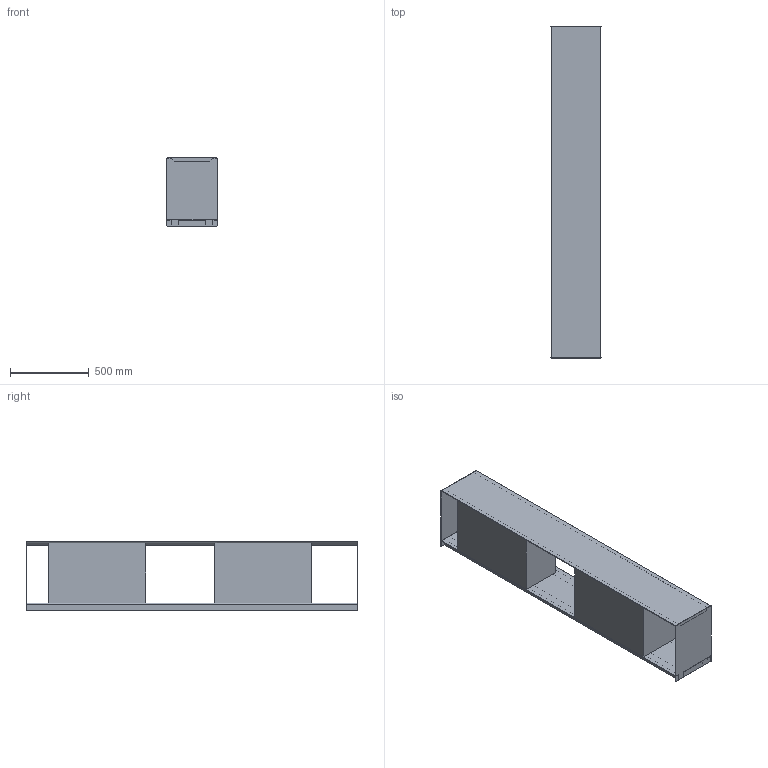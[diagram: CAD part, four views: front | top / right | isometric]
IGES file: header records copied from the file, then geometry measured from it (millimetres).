
Start section: Comment
Global section: file name: Stack - 210 x 043.igs; native system:  By UGS Corp.; preprocessor: XPlus GENERIC/IGES 3.0; author: Author; organization: Title; date: 20141016.143755; units: inch
Bounding box: 319 x 2105 x 433 mm (x, y, z)
Surface area: 6075769.7 mm2 (no closed solid volume)
Topology: 0 solids, 0 shells, 82 faces, 392 edges, 392 vertices
Faces by surface type: bspline 82
